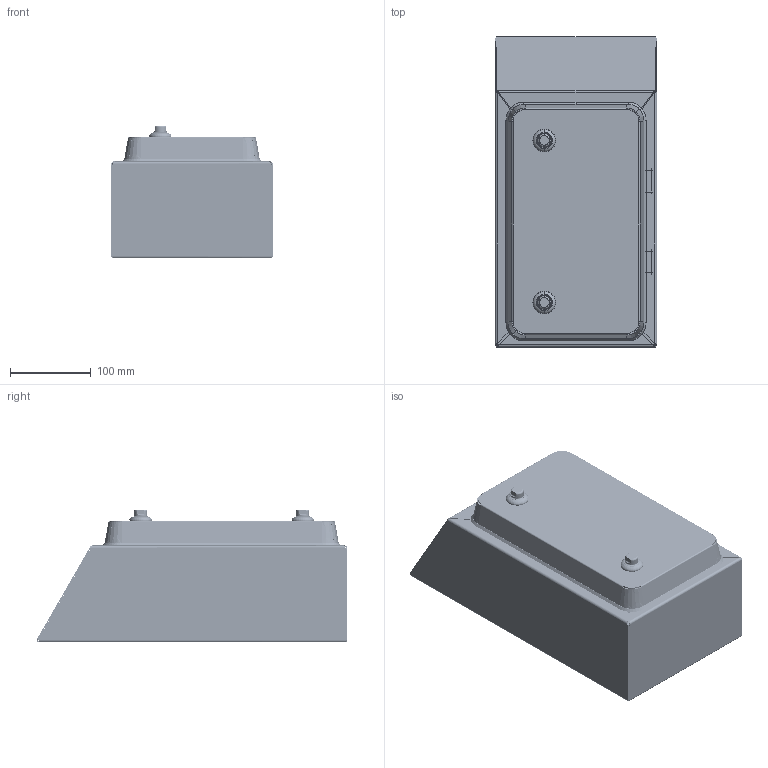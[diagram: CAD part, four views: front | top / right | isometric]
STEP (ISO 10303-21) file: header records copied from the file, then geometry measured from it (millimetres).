
FILE_DESCRIPTION (( 'STEP AP214' ), '1' );
FILE_NAME ('EY0200300150038.STEP', '2026-09-07T08:50:54', ( '' ), ( '' ), 'SwSTEP 2.0', 'SolidWorks 2021', '' );
FILE_SCHEMA (( 'AUTOMOTIVE_DESIGN' ));
Length unit declared in the file: millimetre
Products named in the file (31): 1641001; CICATRON_M8x25_standard; 1890860; EY0200300150038; None; AS.HY_EKO.HY_ASSIEME_CERNIERA; 9CAEKOSP01274; 013073010; 99MS00102_HY STD; 1890865; 40000025_standard; Cicatron_M6x20; 9CAEKOMT14619; 18100093; 99M000255; None_2; 9SAEKOMI00003; 1648103004; 166104010_standard; 9CAEKOSP01275; 1611404_standard; 9CAEKOPA13057_VISTA CON GUARNIZIONE; rosetta_5_4; 9SAEKOMT00080; 1642008; 1000-28; 9SAEKOPA00015; dado_inox_basso_M8_AUTOBLOCCANTE_detailed; MASSA_M6; 1890005; UNI 5588 M6x 1_standard
Assembly tree (43 placements, depth 6):
  EY0200300150038
    9SAEKOMT00080
      9CAEKOMT14619
      99M000255  x4
        CICATRON_M8x25_standard
        40000025_standard
        1642008
        dado_inox_basso_M8_AUTOBLOCCANTE_detailed
      MASSA_M6
        Cicatron_M6x20
        UNI 5588 M6x 1_standard  x2
        rosetta_5_4  x3
    9SAEKOPA00015
      9CAEKOPA13057_VISTA CON GUARNIZIONE
      9CAEKOSP01274  x2
      9CAEKOSP01275  x2
      9SAEKOMI00003  x2
        AS.HY_EKO.HY_ASSIEME_CERNIERA
          1890860
          1890865
          1890005
          1648103004
          99MS00102_HY STD  x3
            166104010_standard
            1641001
            1611404_standard
      18100093  x2
        None
        None_2
        1000-28
      MASSA_M6
        Cicatron_M6x20
        UNI 5588 M6x 1_standard  x2
        rosetta_5_4  x3
    013073010
Bounding box: 200 x 384.09 x 164.48 mm (x, y, z)
Volume: 751966.5 mm3; surface area: 862674.8 mm2
Topology: 77 solids, 87 shells, 4861 faces, 11548 edges, 6835 vertices
Faces by surface type: cylinder 1446, plane 1225, torus 1152, bspline 742, cone 256, sphere 40
Entity records: 104648 total; most frequent: CARTESIAN_POINT 38087, ORIENTED_EDGE 12386, DIRECTION 11851, EDGE_CURVE 6195, AXIS2_PLACEMENT_3D 4739, VERTEX_POINT 3653, EDGE_LOOP 2704, ADVANCED_FACE 2615
